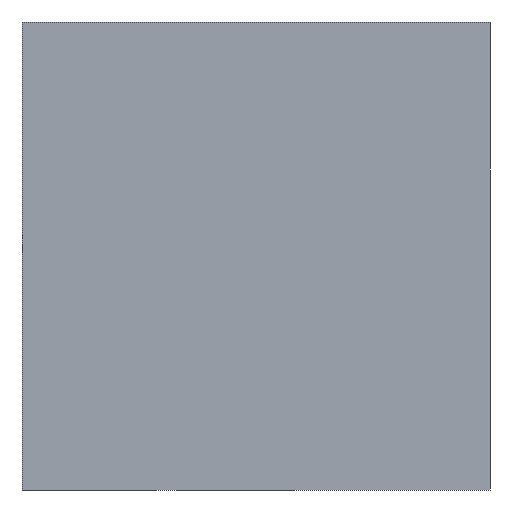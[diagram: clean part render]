
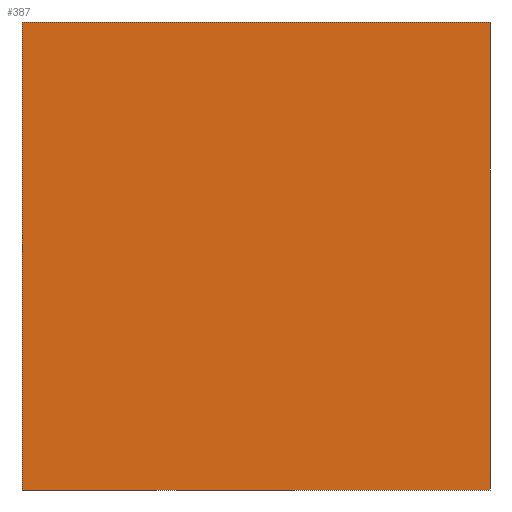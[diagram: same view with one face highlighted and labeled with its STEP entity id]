
A CAD part, front view. The second image highlights one B-rep face of the part: STEP entity #387.
In plain terms, the highlighted planar face has unit normal (0, -1, 0).
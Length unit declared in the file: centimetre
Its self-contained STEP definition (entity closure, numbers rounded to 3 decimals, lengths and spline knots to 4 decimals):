
#1 = DIRECTION ( 'NONE',  ( 0., 0., -1. ) ) ;
#23 = EDGE_CURVE ( 'NONE', #871, #872, #614, .T. ) ;
#60 = PLANE ( 'NONE',  #764 ) ;
#85 = CARTESIAN_POINT ( 'NONE',  ( 1000., 0., 1000. ) ) ;
#139 = EDGE_CURVE ( 'NONE', #552, #406, #240, .T. ) ;
#162 = VECTOR ( 'NONE', #673, 100. ) ;
#216 = CARTESIAN_POINT ( 'NONE',  ( 1000., 0., 1000. ) ) ;
#227 = EDGE_CURVE ( 'NONE', #552, #871, #300, .T. ) ;
#240 = LINE ( 'NONE', #758, #889 ) ;
#300 = LINE ( 'NONE', #882, #162 ) ;
#309 = VECTOR ( 'NONE', #602, 100. ) ;
#328 = ORIENTED_EDGE ( 'NONE', *, *, #227, .F. ) ;
#339 = ORIENTED_EDGE ( 'NONE', *, *, #23, .F. ) ;
#356 = ORIENTED_EDGE ( 'NONE', *, *, #139, .T. ) ;
#372 = CARTESIAN_POINT ( 'NONE',  ( 0., 0., 1000. ) ) ;
#380 = DIRECTION ( 'NONE',  ( 0., 1., 0. ) ) ;
#387 = ADVANCED_FACE ( 'NONE', ( #741 ), #60, .F. ) ;
#406 = VERTEX_POINT ( 'NONE', #568 ) ;
#416 = VECTOR ( 'NONE', #1, 100. ) ;
#451 = CARTESIAN_POINT ( 'NONE',  ( 1000., 0., 0. ) ) ;
#464 = CARTESIAN_POINT ( 'NONE',  ( 0., 0., 0. ) ) ;
#493 = ORIENTED_EDGE ( 'NONE', *, *, #911, .T. ) ;
#508 = CARTESIAN_POINT ( 'NONE',  ( 0., 0., 1000. ) ) ;
#540 = LINE ( 'NONE', #464, #309 ) ;
#552 = VERTEX_POINT ( 'NONE', #508 ) ;
#568 = CARTESIAN_POINT ( 'NONE',  ( 0., 0., 0. ) ) ;
#602 = DIRECTION ( 'NONE',  ( 1., 0., 0. ) ) ;
#604 = DIRECTION ( 'NONE',  ( 0., 0., 1. ) ) ;
#614 = LINE ( 'NONE', #85, #416 ) ;
#673 = DIRECTION ( 'NONE',  ( 1., 0., 0. ) ) ;
#734 = DIRECTION ( 'NONE',  ( 0., 0., -1. ) ) ;
#741 = FACE_OUTER_BOUND ( 'NONE', #865, .T. ) ;
#758 = CARTESIAN_POINT ( 'NONE',  ( 0., 0., 1000. ) ) ;
#764 = AXIS2_PLACEMENT_3D ( 'NONE', #372, #380, #604 ) ;
#865 = EDGE_LOOP ( 'NONE', ( #493, #339, #328, #356 ) ) ;
#871 = VERTEX_POINT ( 'NONE', #216 ) ;
#872 = VERTEX_POINT ( 'NONE', #451 ) ;
#882 = CARTESIAN_POINT ( 'NONE',  ( 0., 0., 1000. ) ) ;
#889 = VECTOR ( 'NONE', #734, 100. ) ;
#911 = EDGE_CURVE ( 'NONE', #406, #872, #540, .T. ) ;
